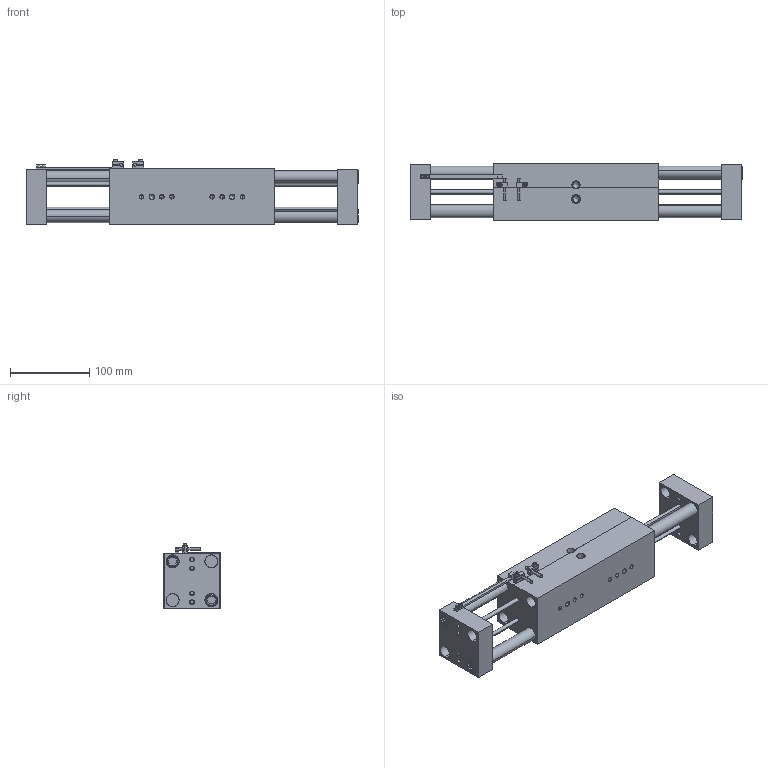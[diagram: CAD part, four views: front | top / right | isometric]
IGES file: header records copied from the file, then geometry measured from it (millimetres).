
Start section: SolidWorks IGES file using analytic representation for surfaces
Global section: file name: C:\Users\jmkuhnes\Pictures\My Transfers\AGW-625-6\AGW-625-6 OPEN in IN.IGS; native system: SolidWorks 2013; preprocessor: SolidWorks 2013; author: jmkuhnes; date: 141125.095738; units: inch
Bounding box: 419.1 x 71.12 x 83.19 mm (x, y, z)
Surface area: 207726.1 mm2 (no closed solid volume)
Topology: 0 solids, 0 shells, 393 faces, 5318 edges, 5286 vertices
Faces by surface type: revolution 220, bspline 173
